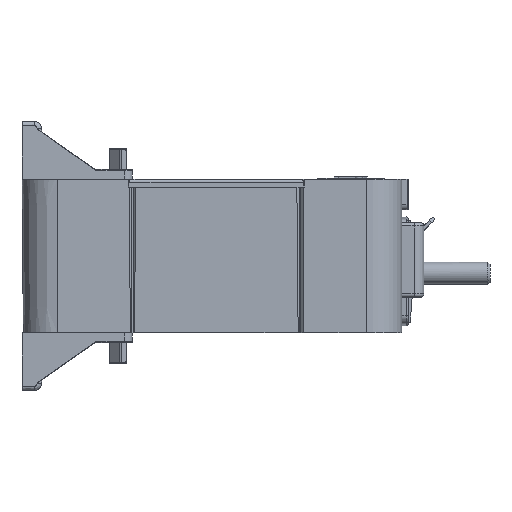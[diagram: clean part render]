
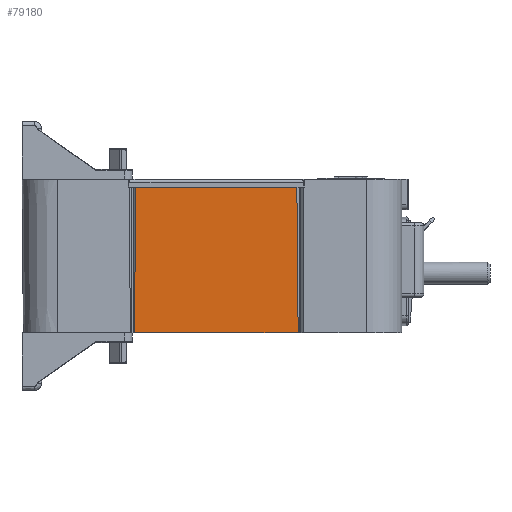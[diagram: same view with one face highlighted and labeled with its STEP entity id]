
A CAD part, left-side view. The second image highlights one B-rep face of the part: STEP entity #79180.
In plain terms, the highlighted planar face has unit normal (-1, 0, -0.009).
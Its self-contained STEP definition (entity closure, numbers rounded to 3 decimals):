
#78790=CARTESIAN_POINT('',(-42.917,-40.033,
26.7));
#78800=DIRECTION('',(-1.,0.,
-0.009));
#78810=DIRECTION('',(0.,1.,0.));
#78820=AXIS2_PLACEMENT_3D('',#78790,#78800,#78810);
#78830=PLANE('',#78820);
#78840=CARTESIAN_POINT('',(-42.917,22.38,
26.7));
#78850=DIRECTION('',(0.,-1.,0.));
#78860=VECTOR('',#78850,1.);
#78870=LINE('',#78840,#78860);
#78880=CARTESIAN_POINT('',(-42.917,12.217,
26.7));
#78890=VERTEX_POINT('',#78880);
#78900=CARTESIAN_POINT('',(-42.917,-24.283,
26.7));
#78910=VERTEX_POINT('',#78900);
#78920=EDGE_CURVE('',#78890,#78910,#78870,.T.);
#78930=ORIENTED_EDGE('',*,*,#78920,.F.);
#78940=CARTESIAN_POINT('',(-42.631,-24.569,
-6.123));
#78950=DIRECTION('',(0.009,-0.009,
-1.));
#78960=VECTOR('',#78950,1.);
#78970=LINE('',#78940,#78960);
#78980=CARTESIAN_POINT('',(-42.629,-24.571,
-6.3));
#78990=VERTEX_POINT('',#78980);
#79000=EDGE_CURVE('',#78910,#78990,#78970,.T.);
#79010=ORIENTED_EDGE('',*,*,#79000,.F.);
#79020=CARTESIAN_POINT('',(-42.629,22.38,
-6.3));
#79030=DIRECTION('',(0.,-1.,0.));
#79040=VECTOR('',#79030,1.);
#79050=LINE('',#79020,#79040);
#79060=CARTESIAN_POINT('',(-42.629,12.505,
-6.3));
#79070=VERTEX_POINT('',#79060);
#79080=EDGE_CURVE('',#79070,#78990,#79050,.T.);
#79090=ORIENTED_EDGE('',*,*,#79080,.T.);
#79100=CARTESIAN_POINT('',(-42.626,12.508,
-6.619));
#79110=DIRECTION('',(0.009,0.009,
-1.));
#79120=VECTOR('',#79110,1.);
#79130=LINE('',#79100,#79120);
#79140=EDGE_CURVE('',#78890,#79070,#79130,.T.);
#79150=ORIENTED_EDGE('',*,*,#79140,.T.);
#79160=EDGE_LOOP('',(#79150,#79090,#79010,#78930));
#79170=FACE_OUTER_BOUND('',#79160,.T.);
#79180=ADVANCED_FACE('',(#79170),#78830,.T.);
